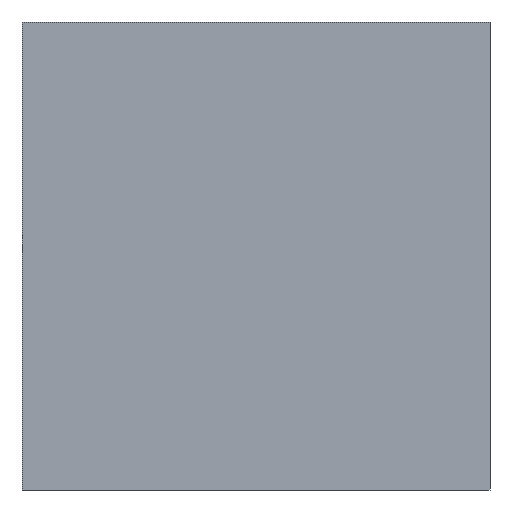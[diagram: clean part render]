
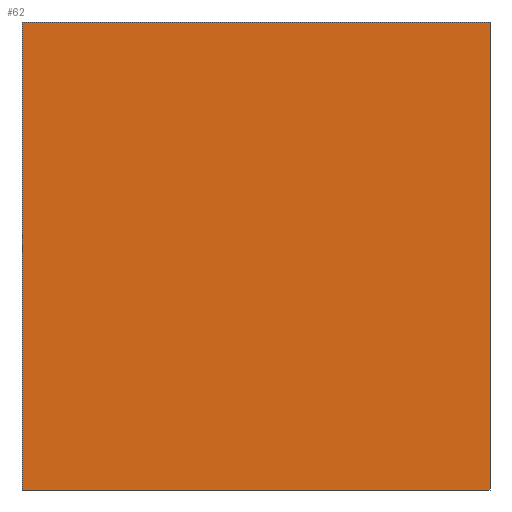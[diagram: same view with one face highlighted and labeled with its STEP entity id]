
A CAD part, left-side view. The second image highlights one B-rep face of the part: STEP entity #62.
In plain terms, the highlighted planar face has unit normal (-1, 0, 0).
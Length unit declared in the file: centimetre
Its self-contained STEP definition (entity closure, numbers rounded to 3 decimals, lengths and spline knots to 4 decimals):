
#1 = ORIENTED_EDGE ( 'NONE', *, *, #212, .T. ) ;
#29 = DIRECTION ( 'NONE',  ( 0., 0., -1. ) ) ;
#55 = CARTESIAN_POINT ( 'NONE',  ( 0., 1000., 0. ) ) ;
#62 = ADVANCED_FACE ( 'NONE', ( #381 ), #353, .F. ) ;
#92 = CARTESIAN_POINT ( 'NONE',  ( 0., 0., 1000. ) ) ;
#97 = CARTESIAN_POINT ( 'NONE',  ( 0., 0., 1000. ) ) ;
#104 = EDGE_CURVE ( 'NONE', #337, #215, #189, .T. ) ;
#106 = VERTEX_POINT ( 'NONE', #92 ) ;
#118 = CARTESIAN_POINT ( 'NONE',  ( 0., 0., 0. ) ) ;
#121 = CARTESIAN_POINT ( 'NONE',  ( 0., 1000., 1000. ) ) ;
#131 = DIRECTION ( 'NONE',  ( 0., -1., 0. ) ) ;
#132 = EDGE_LOOP ( 'NONE', ( #1, #275, #272, #174 ) ) ;
#146 = LINE ( 'NONE', #259, #307 ) ;
#163 = AXIS2_PLACEMENT_3D ( 'NONE', #121, #416, #214 ) ;
#174 = ORIENTED_EDGE ( 'NONE', *, *, #104, .T. ) ;
#189 = LINE ( 'NONE', #253, #363 ) ;
#212 = EDGE_CURVE ( 'NONE', #215, #325, #146, .T. ) ;
#214 = DIRECTION ( 'NONE',  ( 0., 0., -1. ) ) ;
#215 = VERTEX_POINT ( 'NONE', #55 ) ;
#223 = DIRECTION ( 'NONE',  ( 0., -1., 0. ) ) ;
#225 = LINE ( 'NONE', #97, #378 ) ;
#253 = CARTESIAN_POINT ( 'NONE',  ( 0., 1000., 1000. ) ) ;
#259 = CARTESIAN_POINT ( 'NONE',  ( 0., 1000., 0. ) ) ;
#261 = VECTOR ( 'NONE', #131, 100. ) ;
#272 = ORIENTED_EDGE ( 'NONE', *, *, #433, .F. ) ;
#275 = ORIENTED_EDGE ( 'NONE', *, *, #382, .F. ) ;
#307 = VECTOR ( 'NONE', #223, 100. ) ;
#312 = CARTESIAN_POINT ( 'NONE',  ( 0., 1000., 1000. ) ) ;
#325 = VERTEX_POINT ( 'NONE', #118 ) ;
#331 = CARTESIAN_POINT ( 'NONE',  ( 0., 1000., 1000. ) ) ;
#337 = VERTEX_POINT ( 'NONE', #312 ) ;
#353 = PLANE ( 'NONE',  #163 ) ;
#363 = VECTOR ( 'NONE', #386, 100. ) ;
#369 = LINE ( 'NONE', #331, #261 ) ;
#378 = VECTOR ( 'NONE', #29, 100. ) ;
#381 = FACE_OUTER_BOUND ( 'NONE', #132, .T. ) ;
#382 = EDGE_CURVE ( 'NONE', #106, #325, #225, .T. ) ;
#386 = DIRECTION ( 'NONE',  ( 0., 0., -1. ) ) ;
#416 = DIRECTION ( 'NONE',  ( 1., 0., 0. ) ) ;
#433 = EDGE_CURVE ( 'NONE', #337, #106, #369, .T. ) ;
